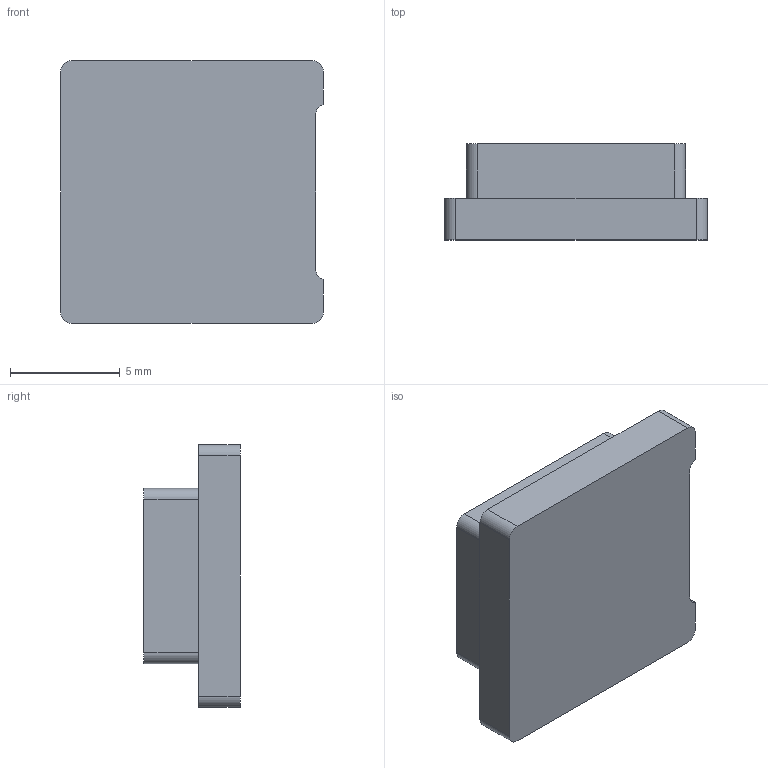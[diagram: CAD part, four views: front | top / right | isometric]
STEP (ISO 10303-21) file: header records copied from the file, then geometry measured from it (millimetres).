
FILE_DESCRIPTION(/* description */ ('STEP AP214'),/* implementation_level */ '2;1');
FILE_NAME(/* name */ 'Nutenstein GN 938.1-ZD-8',/* time_stamp */ '2024-03-14T15:10:21+01:00',/* author */ ('License CC BY-ND 4.0'),/* organization */ ('CADENAS'),/* preprocessor_version */ 'ST-DEVELOPER v19.3',/* originating_system */ 'PARTsolutions',/* authorisation */ ' ');
FILE_SCHEMA (('AUTOMOTIVE_DESIGN {1 0 10303 214 3 1 1}'));
Length unit declared in the file: millimetre
Products named in the file (1): Nutenstein GN 938.1-ZD-8
Bounding box: 12 x 4.4 x 12 mm (x, y, z)
Volume: 467.5 mm3; surface area: 460.2 mm2
Topology: 1 solids, 1 shells, 23 faces, 60 edges, 40 vertices
Faces by surface type: plane 13, cylinder 10
Entity records: 744 total; most frequent: DIRECTION 128, CARTESIAN_POINT 124, ORIENTED_EDGE 120, EDGE_CURVE 60, AXIS2_PLACEMENT_3D 44, VERTEX_POINT 40, LINE 40, VECTOR 40
